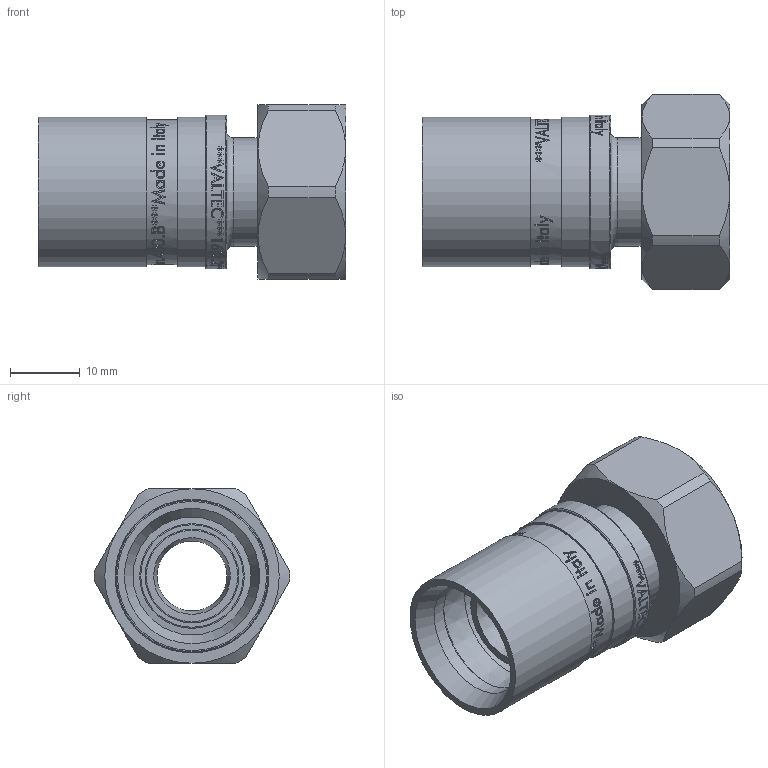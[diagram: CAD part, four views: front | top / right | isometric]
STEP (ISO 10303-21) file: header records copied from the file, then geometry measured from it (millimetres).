
FILE_DESCRIPTION(/* description */ (''),/* implementation_level */ '2;1');
FILE_NAME(/* name */ 'F:\Артём\00000\Работа удаленка\Аксеальные фитинги\VTm.422.BG.001604.stp',/* time_stamp */ '2021-01-25T15:54:34+03:00',/* author */ ('almis'),/* organization */ (''),/* preprocessor_version */ 'ST-DEVELOPER v18',/* originating_system */ 'Autodesk Inventor 2020',/* authorisation */ '');
FILE_SCHEMA (('AUTOMOTIVE_DESIGN { 1 0 10303 214 3 1 1 }'));
Length unit declared in the file: millimetre
Products named in the file (1): VTm.403.BG.001616
Bounding box: 44.11 x 28 x 25 mm (x, y, z)
Volume: 10427.3 mm3; surface area: 9699.1 mm2
Topology: 2 solids, 2 shells, 1290 faces, 3538 edges, 2367 vertices
Faces by surface type: bspline 684, plane 409, cylinder 153, torus 23, cone 21
Full cylindrical faces by diameter (mm): 10 x1, 12.8 x5, 13.4 x4, 15 x1, 15.1 x1, 15.5 x1, 16.9 x5, 18.6 x7, 20.8 x1, 21.4 x2, 22 x1, 22.2 x6
Entity records: 54538 total; most frequent: CARTESIAN_POINT 25926, ORIENTED_EDGE 7076, DIRECTION 3946, EDGE_CURVE 3538, VERTEX_POINT 2367, LINE 1504, VECTOR 1504, EDGE_LOOP 1409
